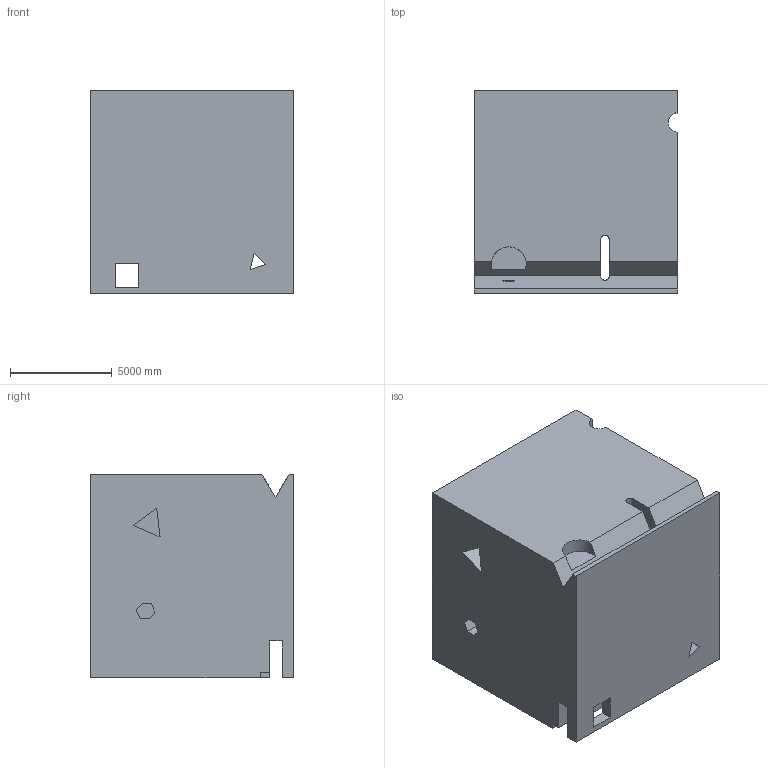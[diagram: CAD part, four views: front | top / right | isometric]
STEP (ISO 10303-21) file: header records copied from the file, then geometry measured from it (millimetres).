
FILE_DESCRIPTION (( 'STEP AP203' ), '1' );
FILE_NAME ('97.STEP', '2022-09-02T15:27:17', ( 'user' ), ( '' ), 'SwSTEP 2.0', 'SolidWorks 2021', '' );
FILE_SCHEMA (( 'CONFIG_CONTROL_DESIGN' ));
Length unit declared in the file: centimetre
Products named in the file (1): 97
Bounding box: 10000 x 10000 x 10000 mm (x, y, z)
Volume: 945489977764 mm3; surface area: 787962038.1 mm2
Topology: 1 solids, 1 shells, 55 faces, 162 edges, 108 vertices
Faces by surface type: plane 47, cylinder 8
Entity records: 1905 total; most frequent: CARTESIAN_POINT 344, ORIENTED_EDGE 324, DIRECTION 280, EDGE_CURVE 162, VECTOR 144, LINE 144, VERTEX_POINT 108, AXIS2_PLACEMENT_3D 68
